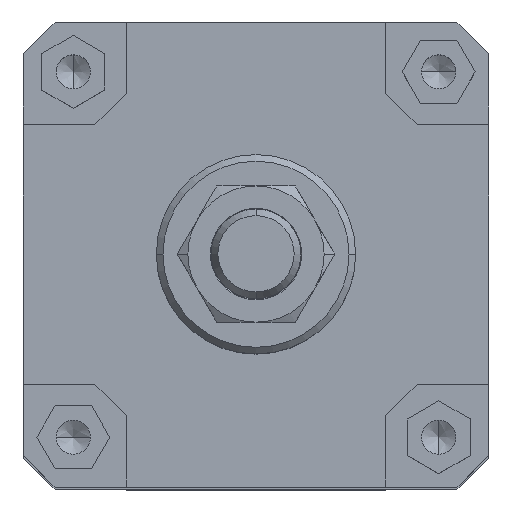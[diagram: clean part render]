
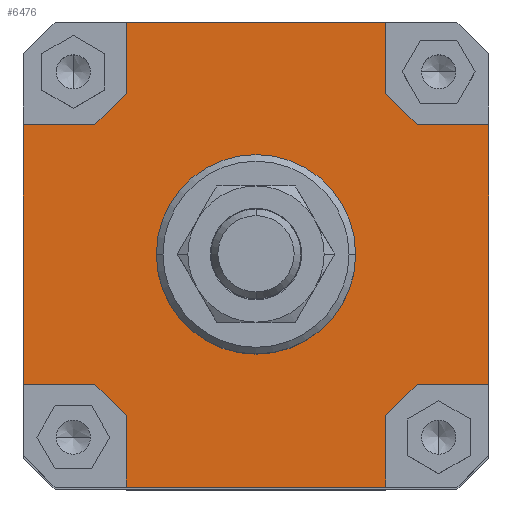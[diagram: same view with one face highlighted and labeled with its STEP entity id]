
A CAD part, top view. The second image highlights one B-rep face of the part: STEP entity #6476.
In plain terms, the highlighted planar face has unit normal (0, 0, 1).
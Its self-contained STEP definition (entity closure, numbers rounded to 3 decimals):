
#2320=CARTESIAN_POINT('',(-30.0,0.,255.0));
#2321=VERTEX_POINT('',#2320);
#2330=CARTESIAN_POINT('',(30.0,0.,255.0));
#2331=VERTEX_POINT('',#2330);
#2332=CARTESIAN_POINT('',(0.0,0.0,255.0));
#2333=DIRECTION('',(0.0,0.0,-1.0));
#2334=DIRECTION('',(-1.0,0.0,0.0));
#2335=AXIS2_PLACEMENT_3D('',#2332,#2333,#2334);
#2336=CIRCLE('',#2335,30.0);
#2337=EDGE_CURVE('',#2331,#2321,#2336,.T.);
#2557=CARTESIAN_POINT('',(0.0,0.0,255.0));
#2558=DIRECTION('',(0.0,0.0,-1.0));
#2559=DIRECTION('',(-1.0,0.0,0.0));
#2560=AXIS2_PLACEMENT_3D('',#2557,#2558,#2559);
#2561=CIRCLE('',#2560,30.0);
#2562=EDGE_CURVE('',#2321,#2331,#2561,.T.);
#2641=CARTESIAN_POINT('',(-39.,70.,255.0));
#2642=VERTEX_POINT('',#2641);
#2649=CARTESIAN_POINT('',(39.,70.,255.0));
#2650=VERTEX_POINT('',#2649);
#2651=CARTESIAN_POINT('',(-39.,70.,255.0));
#2652=DIRECTION('',(1.0,0.0,0.0));
#2653=VECTOR('',#2652,78.);
#2654=LINE('',#2651,#2653);
#2655=EDGE_CURVE('',#2642,#2650,#2654,.T.);
#3100=CARTESIAN_POINT('',(70.,39.,255.0));
#3101=VERTEX_POINT('',#3100);
#3108=CARTESIAN_POINT('',(70.,-39.0,255.0));
#3109=VERTEX_POINT('',#3108);
#3110=CARTESIAN_POINT('',(70.,39.,255.0));
#3111=DIRECTION('',(0.0,-1.0,0.0));
#3112=VECTOR('',#3111,78.);
#3113=LINE('',#3110,#3112);
#3114=EDGE_CURVE('',#3101,#3109,#3113,.T.);
#3181=CARTESIAN_POINT('',(-39.,-48.5,255.0));
#3182=VERTEX_POINT('',#3181);
#3189=CARTESIAN_POINT('',(-48.5,-39.,255.0));
#3190=VERTEX_POINT('',#3189);
#3191=CARTESIAN_POINT('',(-39.,-48.5,255.0));
#3192=DIRECTION('',(-0.707,0.707,0.0));
#3193=VECTOR('',#3192,13.435);
#3194=LINE('',#3191,#3193);
#3195=EDGE_CURVE('',#3182,#3190,#3194,.T.);
#3309=CARTESIAN_POINT('',(-70.,-39.,255.0));
#3310=VERTEX_POINT('',#3309);
#3311=CARTESIAN_POINT('',(-70.,-39.,255.0));
#3312=DIRECTION('',(1.0,0.0,0.0));
#3313=VECTOR('',#3312,21.5);
#3314=LINE('',#3311,#3313);
#3315=EDGE_CURVE('',#3310,#3190,#3314,.T.);
#3342=CARTESIAN_POINT('',(48.5,-39.,255.0));
#3343=VERTEX_POINT('',#3342);
#3350=CARTESIAN_POINT('',(39.,-48.5,255.0));
#3351=VERTEX_POINT('',#3350);
#3352=CARTESIAN_POINT('',(48.5,-39.,255.0));
#3353=DIRECTION('',(-0.707,-0.707,0.0));
#3354=VECTOR('',#3353,13.435);
#3355=LINE('',#3352,#3354);
#3356=EDGE_CURVE('',#3343,#3351,#3355,.T.);
#3454=CARTESIAN_POINT('',(39.,-70.,255.0));
#3455=VERTEX_POINT('',#3454);
#3456=CARTESIAN_POINT('',(39.,-70.,255.0));
#3457=DIRECTION('',(0.0,1.0,0.0));
#3458=VECTOR('',#3457,21.5);
#3459=LINE('',#3456,#3458);
#3460=EDGE_CURVE('',#3455,#3351,#3459,.T.);
#3487=CARTESIAN_POINT('',(39.,48.5,255.0));
#3488=VERTEX_POINT('',#3487);
#3495=CARTESIAN_POINT('',(48.5,39.,255.0));
#3496=VERTEX_POINT('',#3495);
#3497=CARTESIAN_POINT('',(39.,48.5,255.0));
#3498=DIRECTION('',(0.707,-0.707,0.0));
#3499=VECTOR('',#3498,13.435);
#3500=LINE('',#3497,#3499);
#3501=EDGE_CURVE('',#3488,#3496,#3500,.T.);
#3592=CARTESIAN_POINT('',(70.,39.,255.0));
#3593=DIRECTION('',(-1.0,0.0,0.0));
#3594=VECTOR('',#3593,21.5);
#3595=LINE('',#3592,#3594);
#3596=EDGE_CURVE('',#3101,#3496,#3595,.T.);
#3609=CARTESIAN_POINT('',(-48.5,39.,255.0));
#3610=VERTEX_POINT('',#3609);
#3617=CARTESIAN_POINT('',(-39.,48.5,255.0));
#3618=VERTEX_POINT('',#3617);
#3619=CARTESIAN_POINT('',(-48.5,39.,255.0));
#3620=DIRECTION('',(0.707,0.707,0.0));
#3621=VECTOR('',#3620,13.435);
#3622=LINE('',#3619,#3621);
#3623=EDGE_CURVE('',#3610,#3618,#3622,.T.);
#3640=CARTESIAN_POINT('',(-39.,70.,255.0));
#3641=DIRECTION('',(0.0,-1.0,0.0));
#3642=VECTOR('',#3641,21.5);
#3643=LINE('',#3640,#3642);
#3644=EDGE_CURVE('',#2642,#3618,#3643,.T.);
#4674=CARTESIAN_POINT('',(-70.,39.0,255.0));
#4675=VERTEX_POINT('',#4674);
#4676=CARTESIAN_POINT('',(-70.,-39.,255.0));
#4677=DIRECTION('',(0.0,1.0,0.0));
#4678=VECTOR('',#4677,78.0);
#4679=LINE('',#4676,#4678);
#4680=EDGE_CURVE('',#3310,#4675,#4679,.T.);
#6070=CARTESIAN_POINT('',(-48.5,39.,255.0));
#6071=DIRECTION('',(-1.0,0.0,0.0));
#6072=VECTOR('',#6071,21.5);
#6073=LINE('',#6070,#6072);
#6074=EDGE_CURVE('',#3610,#4675,#6073,.T.);
#6231=CARTESIAN_POINT('',(39.,48.5,255.0));
#6232=DIRECTION('',(0.0,1.0,0.0));
#6233=VECTOR('',#6232,21.5);
#6234=LINE('',#6231,#6233);
#6235=EDGE_CURVE('',#3488,#2650,#6234,.T.);
#6392=CARTESIAN_POINT('',(48.5,-39.,255.0));
#6393=DIRECTION('',(1.0,0.0,0.0));
#6394=VECTOR('',#6393,21.5);
#6395=LINE('',#6392,#6394);
#6396=EDGE_CURVE('',#3343,#3109,#6395,.T.);
#6437=CARTESIAN_POINT('',(0.,0.,255.0));
#6438=DIRECTION('',(0.0,0.0,1.0));
#6439=DIRECTION('',(1.0,0.0,0.0));
#6440=AXIS2_PLACEMENT_3D('',#6437,#6438,#6439);
#6441=PLANE('',#6440);
#6442=ORIENTED_EDGE('',*,*,#3644,.T.);
#6443=ORIENTED_EDGE('',*,*,#3623,.F.);
#6444=ORIENTED_EDGE('',*,*,#6074,.T.);
#6445=ORIENTED_EDGE('',*,*,#4680,.F.);
#6446=ORIENTED_EDGE('',*,*,#3315,.T.);
#6447=ORIENTED_EDGE('',*,*,#3195,.F.);
#6448=CARTESIAN_POINT('',(-39.,-70.,255.0));
#6449=VERTEX_POINT('',#6448);
#6450=CARTESIAN_POINT('',(-39.,-48.5,255.0));
#6451=DIRECTION('',(0.0,-1.0,0.0));
#6452=VECTOR('',#6451,21.5);
#6453=LINE('',#6450,#6452);
#6454=EDGE_CURVE('',#3182,#6449,#6453,.T.);
#6455=ORIENTED_EDGE('',*,*,#6454,.T.);
#6456=CARTESIAN_POINT('',(39.,-70.,255.0));
#6457=DIRECTION('',(-1.0,0.0,0.0));
#6458=VECTOR('',#6457,78.);
#6459=LINE('',#6456,#6458);
#6460=EDGE_CURVE('',#3455,#6449,#6459,.T.);
#6461=ORIENTED_EDGE('',*,*,#6460,.F.);
#6462=ORIENTED_EDGE('',*,*,#3460,.T.);
#6463=ORIENTED_EDGE('',*,*,#3356,.F.);
#6464=ORIENTED_EDGE('',*,*,#6396,.T.);
#6465=ORIENTED_EDGE('',*,*,#3114,.F.);
#6466=ORIENTED_EDGE('',*,*,#3596,.T.);
#6467=ORIENTED_EDGE('',*,*,#3501,.F.);
#6468=ORIENTED_EDGE('',*,*,#6235,.T.);
#6469=ORIENTED_EDGE('',*,*,#2655,.F.);
#6470=EDGE_LOOP('',(#6442,#6443,#6444,#6445,#6446,#6447,#6455,#6461,#6462,#6463,#6464,#6465,#6466,#6467,#6468,#6469));
#6471=FACE_OUTER_BOUND('',#6470,.T.);
#6472=ORIENTED_EDGE('',*,*,#2337,.T.);
#6473=ORIENTED_EDGE('',*,*,#2562,.T.);
#6474=EDGE_LOOP('',(#6472,#6473));
#6475=FACE_BOUND('',#6474,.T.);
#6476=ADVANCED_FACE('',(#6471,#6475),#6441,.T.);
